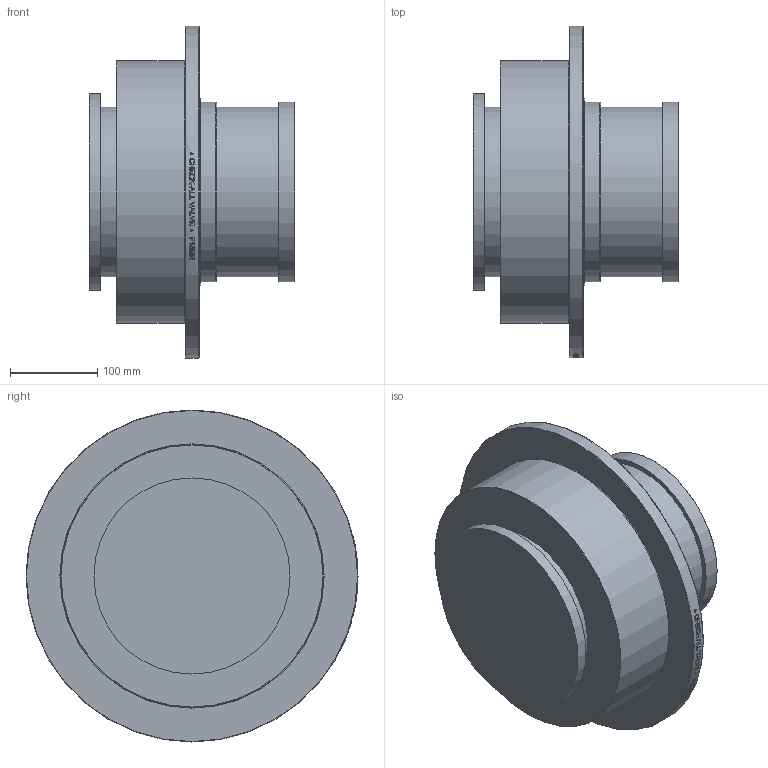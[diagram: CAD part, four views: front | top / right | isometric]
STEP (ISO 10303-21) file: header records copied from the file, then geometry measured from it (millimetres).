
FILE_DESCRIPTION( ( 'Unknown' ), '1' );
FILE_NAME( 'Y:/ENGR/3D Solid Edge Models/F1/F1 STEP/F1SBR.stp', 'Unknown', ( 'Unknown' ), ( 'Unknown' ), 'PSStep 14.0', 'Unknown', ' ' );
FILE_SCHEMA( ( 'AUTOMOTIVE_DESIGN { 1 0 10303 214 1 1 1 1 }' ) );
Length unit declared in the file: millimetre
Products named in the file (1): 1
Bounding box: 235.89 x 381 x 381 mm (x, y, z)
Volume: 11959404.7 mm3; surface area: 436008.4 mm2
Topology: 1 solids, 1 shells, 230 faces, 573 edges, 380 vertices
Faces by surface type: plane 133, bspline 55, cylinder 35, torus 4, cone 3
Full cylindrical faces by diameter (mm): 194.818 x2, 206.375 x2, 225.044 x1, 301.777 x1, 381 x1
Entity records: 13057 total; most frequent: CARTESIAN_POINT 6969, ORIENTED_EDGE 1118, EDGE_CURVE 559, B_SPLINE_CURVE_WITH_KNOTS 537, DIRECTION 396, VERTEX_POINT 380, EDGE_LOOP 279, FACE_OUTER_BOUND 241
